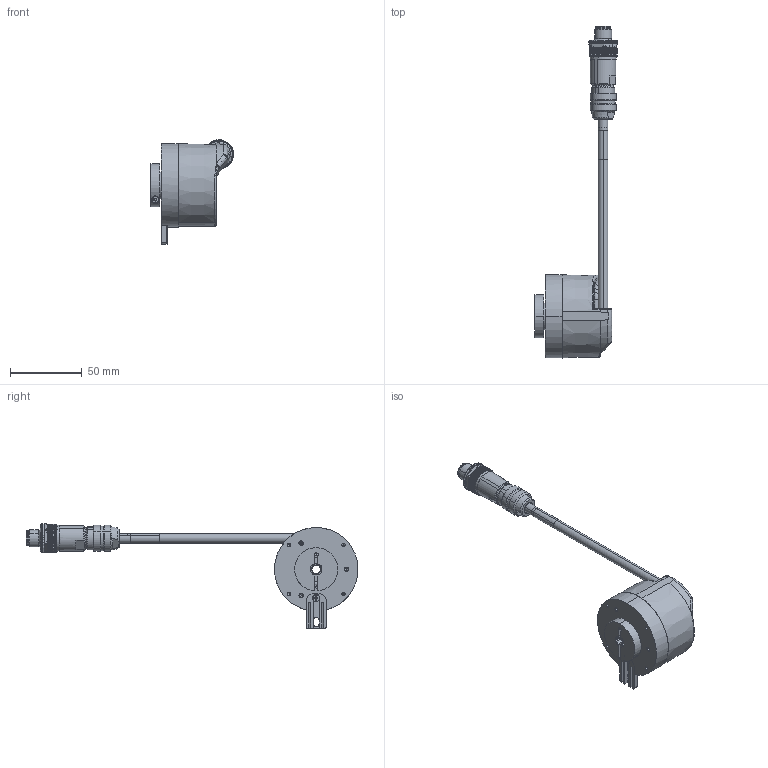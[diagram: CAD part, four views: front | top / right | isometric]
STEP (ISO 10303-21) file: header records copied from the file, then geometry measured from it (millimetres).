
FILE_DESCRIPTION (( 'STEP AP203' ), '1' );
FILE_NAME ('K58I.OXX.XXXXX.XH11506.6XT12.XXXX.step', '2025-12-08T12:38:46', ( '' ), ( '' ), 'SwSTEP 2.0', 'SolidWorks 2021', '' );
FILE_SCHEMA (( 'CONFIG_CONTROL_DESIGN' ));
Length unit declared in the file: millimetre
Products named in the file (1): K58I.OXX.XXXXX.XH11506.6XT12.XXXX
Bounding box: 57.89 x 230.59 x 72.49 mm (x, y, z)
Volume: 119099.7 mm3; surface area: 41439.9 mm2
Topology: 15 solids, 20 shells, 1447 faces, 3536 edges, 2136 vertices
Faces by surface type: plane 539, cylinder 449, cone 309, bspline 66, torus 53, sphere 31
Entity records: 46590 total; most frequent: CARTESIAN_POINT 13820, ORIENTED_EDGE 6958, DIRECTION 6726, EDGE_CURVE 3479, AXIS2_PLACEMENT_3D 2690, VERTEX_POINT 2120, EDGE_LOOP 1517, FACE_OUTER_BOUND 1447
